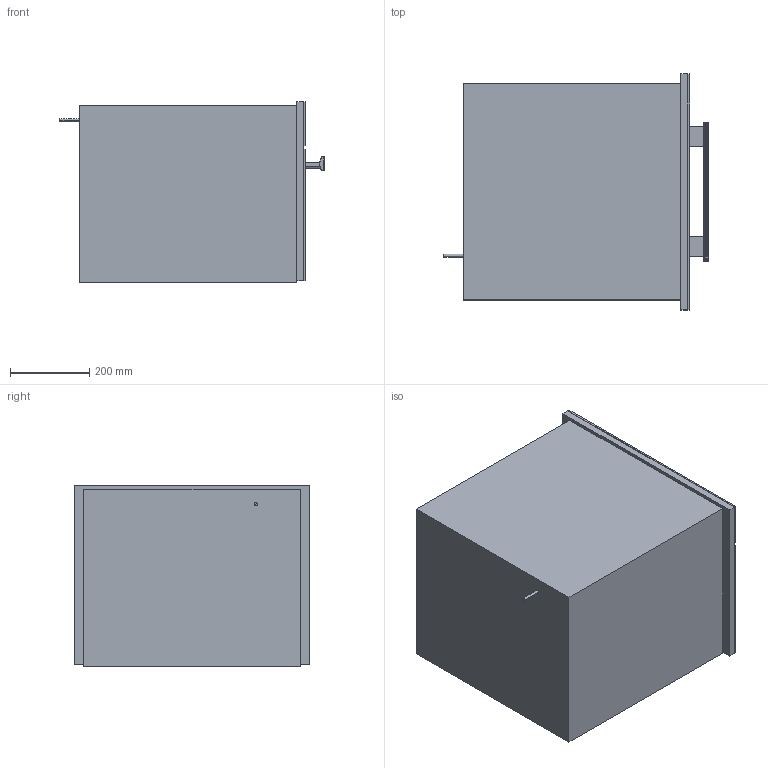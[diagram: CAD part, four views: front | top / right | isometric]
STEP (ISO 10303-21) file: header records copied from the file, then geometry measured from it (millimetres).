
FILE_DESCRIPTION(/* description */ (''),/* implementation_level */ '2;1');
FILE_NAME(/* name */ 'DGC6800_HVBR',/* time_stamp */ '2013-03-11T12:10:41+01:00',/* author */ (''),/* organization */ (''),/* preprocessor_version */ 'ST-DEVELOPER v10',/* originating_system */ '',/* authorisation */ '');
FILE_SCHEMA (('AUTOMOTIVE_DESIGN_CC2'));
Length unit declared in the file: millimetre
Products named in the file (1): 1
Bounding box: 666.59 x 595 x 455.51 mm (x, y, z)
Volume: 86850361 mm3; surface area: 3666688.8 mm2
Topology: 45 solids, 46 shells, 255 faces, 474 edges, 300 vertices
Faces by surface type: bspline 255
Entity records: 13377 total; most frequent: CARTESIAN_POINT 10131, ORIENTED_EDGE 912, EDGE_CURVE 462, VERTEX_POINT 300, EDGE_LOOP 259, ADVANCED_FACE 255, FACE_OUTER_BOUND 255, B_SPLINE_CURVE_WITH_KNOTS 170
